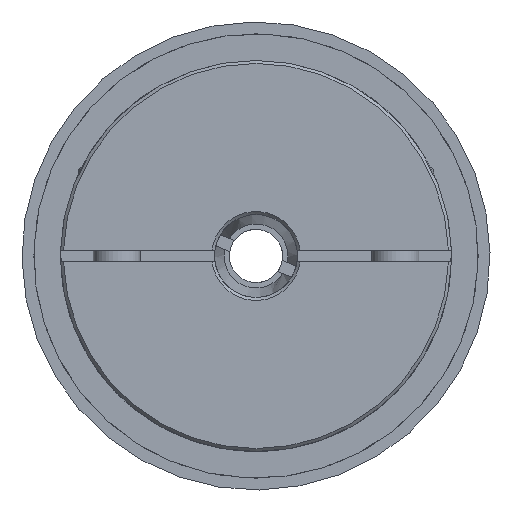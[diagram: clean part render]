
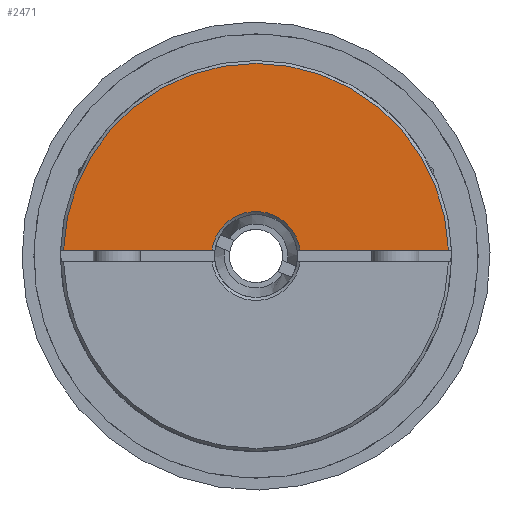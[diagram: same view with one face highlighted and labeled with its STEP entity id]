
A CAD part, left-side view. The second image highlights one B-rep face of the part: STEP entity #2471.
In plain terms, the highlighted planar face has unit normal (-1, 0, 0) as drawn and (1, 0, 0) by its records, which use the part's own axes.
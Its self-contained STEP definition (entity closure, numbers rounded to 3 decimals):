
#2471 = ADVANCED_FACE( '', ( #3453 ), #3454, .T. );
#3453 = FACE_OUTER_BOUND( '', #5066, .T. );
#3454 = PLANE( '', #5067 );
#5066 = EDGE_LOOP( '', ( #5888, #5889, #5890, #5891 ) );
#5067 = AXIS2_PLACEMENT_3D( '', #5892, #5893, #5894 );
#5888 = ORIENTED_EDGE( '', *, *, #6895, .F. );
#5889 = ORIENTED_EDGE( '', *, *, #6896, .T. );
#5890 = ORIENTED_EDGE( '', *, *, #6897, .F. );
#5891 = ORIENTED_EDGE( '', *, *, #6898, .T. );
#5892 = CARTESIAN_POINT( '', ( 31., 0., 33. ) );
#5893 = DIRECTION( '', ( 1., 0., 0. ) );
#5894 = DIRECTION( '', ( 0., 0., -1. ) );
#6895 = EDGE_CURVE( '', #9098, #9099, #9100, .T. );
#6896 = EDGE_CURVE( '', #9098, #9101, #9102, .T. );
#6897 = EDGE_CURVE( '', #9103, #9101, #9104, .T. );
#6898 = EDGE_CURVE( '', #9103, #9099, #9105, .F. );
#9098 = VERTEX_POINT( '', #10166 );
#9099 = VERTEX_POINT( '', #10167 );
#9100 = LINE( '', #10168, #10169 );
#9101 = VERTEX_POINT( '', #10170 );
#9102 = CIRCLE( '', #10171, 32.5 );
#9103 = VERTEX_POINT( '', #10172 );
#9104 = LINE( '', #10173, #10174 );
#9105 = CIRCLE( '', #10175, 7.5 );
#10166 = CARTESIAN_POINT( '', ( 31., 32.485, 1. ) );
#10167 = CARTESIAN_POINT( '', ( 31., 7.433, 1. ) );
#10168 = CARTESIAN_POINT( '', ( 31., 0., 1. ) );
#10169 = VECTOR( '', #10413, 1000. );
#10170 = CARTESIAN_POINT( '', ( 31., -32.485, 1. ) );
#10171 = AXIS2_PLACEMENT_3D( '', #10414, #10415, #10416 );
#10172 = CARTESIAN_POINT( '', ( 31., -7.433, 1. ) );
#10173 = CARTESIAN_POINT( '', ( 31., 0., 1. ) );
#10174 = VECTOR( '', #10417, 1000. );
#10175 = AXIS2_PLACEMENT_3D( '', #10418, #10419, #10420 );
#10413 = DIRECTION( '', ( 0., -1., 0. ) );
#10414 = CARTESIAN_POINT( '', ( 31., 0., 0. ) );
#10415 = DIRECTION( '', ( 1., 0., 0. ) );
#10416 = DIRECTION( '', ( 0., 0., -1. ) );
#10417 = DIRECTION( '', ( 0., -1., 0. ) );
#10418 = CARTESIAN_POINT( '', ( 31., 0., 0. ) );
#10419 = DIRECTION( '', ( 1., 0., 0. ) );
#10420 = DIRECTION( '', ( 0., 0., -1. ) );
